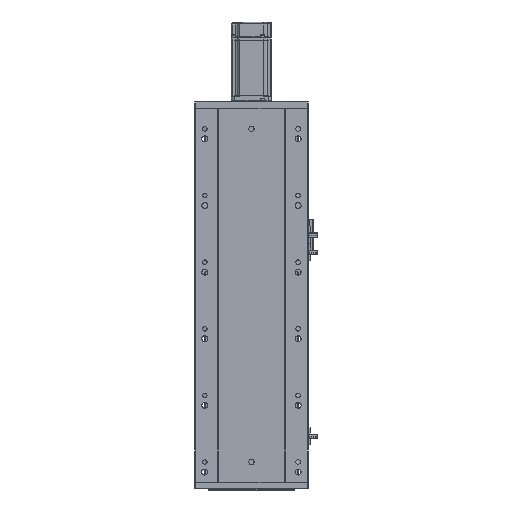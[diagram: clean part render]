
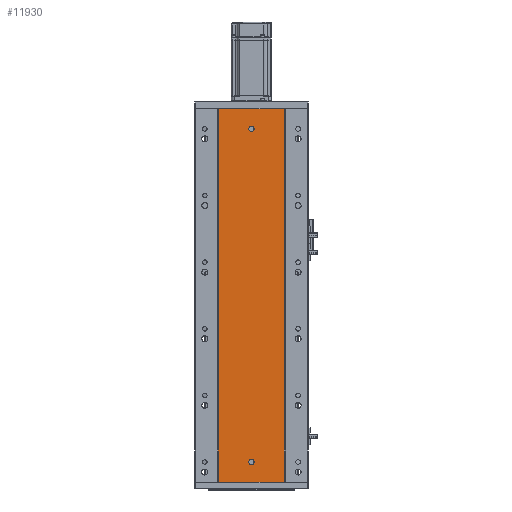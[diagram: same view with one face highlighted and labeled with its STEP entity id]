
A CAD part, front view. The second image highlights one B-rep face of the part: STEP entity #11930.
In plain terms, the highlighted planar face has unit normal (0, -1, 0).
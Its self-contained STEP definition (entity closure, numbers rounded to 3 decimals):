
#855 = ORIENTED_EDGE ( 'NONE', *, *, #30057, .F. ) ;
#874 = ORIENTED_EDGE ( 'NONE', *, *, #30041, .T. ) ;
#876 = ORIENTED_EDGE ( 'NONE', *, *, #29078, .F. ) ;
#879 = ORIENTED_EDGE ( 'NONE', *, *, #30040, .F. ) ;
#882 = ORIENTED_EDGE ( 'NONE', *, *, #30019, .F. ) ;
#896 = ORIENTED_EDGE ( 'NONE', *, *, #30082, .F. ) ;
#900 = ORIENTED_EDGE ( 'NONE', *, *, #29118, .F. ) ;
#902 = ORIENTED_EDGE ( 'NONE', *, *, #30207, .T. ) ;
#2179 = FACE_OUTER_BOUND ( 'NONE', #60877, .T. ) ;
#2192 = FACE_BOUND ( 'NONE', #60771, .T. ) ;
#2234 = FACE_BOUND ( 'NONE', #60777, .T. ) ;
#8667 = CARTESIAN_POINT ( 'NONE',  ( 86.97, 79.476, 0. ) ) ;
#8724 = CARTESIAN_POINT ( 'NONE',  ( 86.97, 79.476, 560. ) ) ;
#11930 = ADVANCED_FACE ( 'NONE', ( #2192, #2234, #2179 ), #25292, .F. ) ;
#19117 = CIRCLE ( 'NONE', #50226, 4. ) ;
#19169 = CIRCLE ( 'NONE', #50372, 4. ) ;
#21127 = VERTEX_POINT ( 'NONE', #8667 ) ;
#21204 = VERTEX_POINT ( 'NONE', #8724 ) ;
#25292 = PLANE ( 'NONE',  #31361 ) ;
#25321 = DIRECTION ( 'NONE',  ( 0., 1., 0. ) ) ;
#25323 = CARTESIAN_POINT ( 'NONE',  ( 0., 79.476, 560. ) ) ;
#25339 = DIRECTION ( 'NONE',  ( 0., 0., 1. ) ) ;
#29078 = EDGE_CURVE ( 'NONE', #39579, #39654, #19117, .T. ) ;
#29118 = EDGE_CURVE ( 'NONE', #39542, #39577, #19169, .T. ) ;
#30019 = EDGE_CURVE ( 'NONE', #39577, #39542, #38470, .T. ) ;
#30040 = EDGE_CURVE ( 'NONE', #40451, #40332, #56813, .T. ) ;
#30041 = EDGE_CURVE ( 'NONE', #21204, #21127, #56900, .T. ) ;
#30057 = EDGE_CURVE ( 'NONE', #21204, #40451, #38534, .T. ) ;
#30082 = EDGE_CURVE ( 'NONE', #39654, #39579, #38607, .T. ) ;
#30207 = EDGE_CURVE ( 'NONE', #21127, #40332, #38764, .T. ) ;
#31361 = AXIS2_PLACEMENT_3D ( 'NONE', #25323, #25321, #25339 ) ;
#36377 = CARTESIAN_POINT ( 'NONE',  ( 136.47, 79.476, 30. ) ) ;
#36386 = DIRECTION ( 'NONE',  ( 0., 0., -1. ) ) ;
#36398 = DIRECTION ( 'NONE',  ( 0., -1., 0. ) ) ;
#37154 = DIRECTION ( 'NONE',  ( 0., 0., -1. ) ) ;
#37163 = DIRECTION ( 'NONE',  ( 0., -1., 0. ) ) ;
#37171 = CARTESIAN_POINT ( 'NONE',  ( 136.47, 79.476, 530. ) ) ;
#37185 = CARTESIAN_POINT ( 'NONE',  ( 86.97, 79.476, 560. ) ) ;
#37186 = CARTESIAN_POINT ( 'NONE',  ( 185.97, 79.476, 0. ) ) ;
#37190 = CARTESIAN_POINT ( 'NONE',  ( 86.97, 79.476, 186.667 ) ) ;
#37201 = CARTESIAN_POINT ( 'NONE',  ( 185.97, 79.476, 560. ) ) ;
#37210 = CARTESIAN_POINT ( 'NONE',  ( 86.97, 79.476, 0. ) ) ;
#37222 = CARTESIAN_POINT ( 'NONE',  ( 185.97, 79.476, 186.667 ) ) ;
#37228 = CARTESIAN_POINT ( 'NONE',  ( 185.97, 79.476, 373.333 ) ) ;
#37246 = CARTESIAN_POINT ( 'NONE',  ( 86.97, 79.476, 373.333 ) ) ;
#37268 = DIRECTION ( 'NONE',  ( 1., 0., 0. ) ) ;
#37329 = CARTESIAN_POINT ( 'NONE',  ( 0., 79.476, 560. ) ) ;
#38470 = CIRCLE ( 'NONE', #51075, 4. ) ;
#38534 = LINE ( 'NONE', #37329, #38545 ) ;
#38545 = VECTOR ( 'NONE', #37268, 1000. ) ;
#38607 = CIRCLE ( 'NONE', #51087, 4. ) ;
#38713 = VECTOR ( 'NONE', #46534, 1000. ) ;
#38764 = LINE ( 'NONE', #46568, #38713 ) ;
#39542 = VERTEX_POINT ( 'NONE', #52642 ) ;
#39577 = VERTEX_POINT ( 'NONE', #52770 ) ;
#39579 = VERTEX_POINT ( 'NONE', #52734 ) ;
#39654 = VERTEX_POINT ( 'NONE', #52897 ) ;
#40332 = VERTEX_POINT ( 'NONE', #53514 ) ;
#40451 = VERTEX_POINT ( 'NONE', #53635 ) ;
#46534 = DIRECTION ( 'NONE',  ( 1., 0., 0. ) ) ;
#46568 = CARTESIAN_POINT ( 'NONE',  ( 0., 79.476, 0. ) ) ;
#50226 = AXIS2_PLACEMENT_3D ( 'NONE', #55650, #55622, #55605 ) ;
#50372 = AXIS2_PLACEMENT_3D ( 'NONE', #55810, #55780, #55778 ) ;
#51075 = AXIS2_PLACEMENT_3D ( 'NONE', #37171, #37163, #37154 ) ;
#51087 = AXIS2_PLACEMENT_3D ( 'NONE', #36377, #36398, #36386 ) ;
#52642 = CARTESIAN_POINT ( 'NONE',  ( 136.47, 79.476, 534. ) ) ;
#52734 = CARTESIAN_POINT ( 'NONE',  ( 136.47, 79.476, 34. ) ) ;
#52770 = CARTESIAN_POINT ( 'NONE',  ( 136.47, 79.476, 526. ) ) ;
#52897 = CARTESIAN_POINT ( 'NONE',  ( 136.47, 79.476, 26. ) ) ;
#53514 = CARTESIAN_POINT ( 'NONE',  ( 185.97, 79.476, 0. ) ) ;
#53635 = CARTESIAN_POINT ( 'NONE',  ( 185.97, 79.476, 560. ) ) ;
#55605 = DIRECTION ( 'NONE',  ( 0., 0., -1. ) ) ;
#55622 = DIRECTION ( 'NONE',  ( 0., -1., 0. ) ) ;
#55650 = CARTESIAN_POINT ( 'NONE',  ( 136.47, 79.476, 30. ) ) ;
#55778 = DIRECTION ( 'NONE',  ( 0., 0., -1. ) ) ;
#55780 = DIRECTION ( 'NONE',  ( 0., -1., 0. ) ) ;
#55810 = CARTESIAN_POINT ( 'NONE',  ( 136.47, 79.476, 530. ) ) ;
#56813 = B_SPLINE_CURVE_WITH_KNOTS ( 'NONE', 3,
 ( #37201, #37228, #37222, #37186 ),
 .UNSPECIFIED., .F., .F.,
 ( 4, 4 ),
 ( 0., 1. ),
 .UNSPECIFIED. ) ;
#56900 = B_SPLINE_CURVE_WITH_KNOTS ( 'NONE', 3,
 ( #37185, #37246, #37190, #37210 ),
 .UNSPECIFIED., .F., .F.,
 ( 4, 4 ),
 ( 0., 1. ),
 .UNSPECIFIED. ) ;
#60771 = EDGE_LOOP ( 'NONE', ( #882, #900 ) ) ;
#60777 = EDGE_LOOP ( 'NONE', ( #896, #876 ) ) ;
#60877 = EDGE_LOOP ( 'NONE', ( #902, #879, #855, #874 ) ) ;
